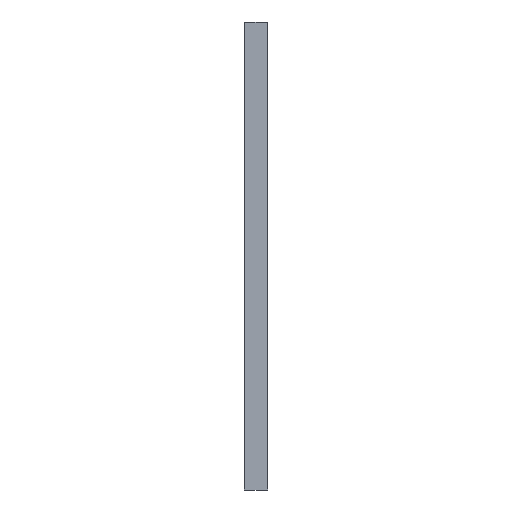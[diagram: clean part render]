
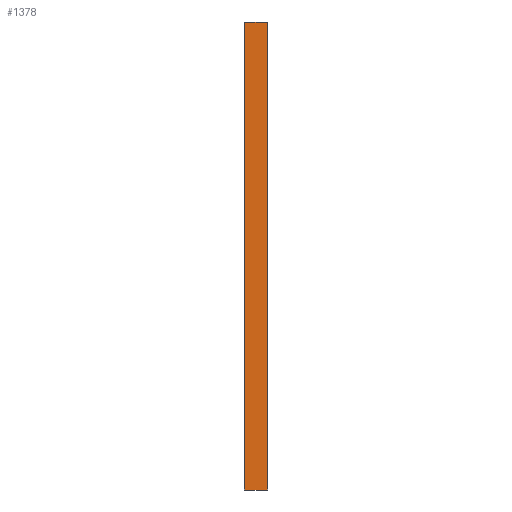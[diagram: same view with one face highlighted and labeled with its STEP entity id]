
A CAD part, front view. The second image highlights one B-rep face of the part: STEP entity #1378.
In plain terms, the highlighted planar face has unit normal (0, -1, 0).
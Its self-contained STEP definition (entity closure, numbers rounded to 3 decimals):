
#14 = CARTESIAN_POINT ( 'NONE',  ( 0., 0., 200. ) ) ;
#31 = DIRECTION ( 'NONE',  ( -1., 0., 0. ) ) ;
#85 = FACE_OUTER_BOUND ( 'NONE', #665, .T. ) ;
#89 = CARTESIAN_POINT ( 'NONE',  ( 0.2, 0., 0. ) ) ;
#134 = CARTESIAN_POINT ( 'NONE',  ( 10., 0., 200. ) ) ;
#266 = LINE ( 'NONE', #1816, #658 ) ;
#285 = ORIENTED_EDGE ( 'NONE', *, *, #730, .T. ) ;
#313 = CARTESIAN_POINT ( 'NONE',  ( 0.2, 0., 199.8 ) ) ;
#355 = VERTEX_POINT ( 'NONE', #89 ) ;
#372 = LINE ( 'NONE', #532, #1732 ) ;
#532 = CARTESIAN_POINT ( 'NONE',  ( 0., 0., 199.8 ) ) ;
#612 = CARTESIAN_POINT ( 'NONE',  ( 10., 0., 0. ) ) ;
#658 = VECTOR ( 'NONE', #1480, 1000. ) ;
#665 = EDGE_LOOP ( 'NONE', ( #668, #285, #878, #1604 ) ) ;
#668 = ORIENTED_EDGE ( 'NONE', *, *, #1849, .T. ) ;
#730 = EDGE_CURVE ( 'NONE', #850, #355, #1491, .T. ) ;
#850 = VERTEX_POINT ( 'NONE', #313 ) ;
#851 = EDGE_CURVE ( 'NONE', #1160, #1052, #911, .T. ) ;
#878 = ORIENTED_EDGE ( 'NONE', *, *, #1952, .T. ) ;
#891 = DIRECTION ( 'NONE',  ( 0., 0., 1. ) ) ;
#911 = LINE ( 'NONE', #134, #1790 ) ;
#1023 = VECTOR ( 'NONE', #1519, 1000. ) ;
#1052 = VERTEX_POINT ( 'NONE', #1283 ) ;
#1160 = VERTEX_POINT ( 'NONE', #612 ) ;
#1283 = CARTESIAN_POINT ( 'NONE',  ( 10., 0., 199.8 ) ) ;
#1378 = ADVANCED_FACE ( 'NONE', ( #85 ), #1408, .F. ) ;
#1408 = PLANE ( 'NONE',  #1920 ) ;
#1480 = DIRECTION ( 'NONE',  ( 1., 0., 0. ) ) ;
#1491 = LINE ( 'NONE', #2233, #1023 ) ;
#1519 = DIRECTION ( 'NONE',  ( 0., 0., -1. ) ) ;
#1604 = ORIENTED_EDGE ( 'NONE', *, *, #851, .T. ) ;
#1732 = VECTOR ( 'NONE', #31, 1000. ) ;
#1790 = VECTOR ( 'NONE', #1894, 1000. ) ;
#1816 = CARTESIAN_POINT ( 'NONE',  ( 0., 0., 0. ) ) ;
#1849 = EDGE_CURVE ( 'NONE', #1052, #850, #372, .T. ) ;
#1894 = DIRECTION ( 'NONE',  ( 0., 0., 1. ) ) ;
#1920 = AXIS2_PLACEMENT_3D ( 'NONE', #14, #1950, #891 ) ;
#1950 = DIRECTION ( 'NONE',  ( 0., 1., 0. ) ) ;
#1952 = EDGE_CURVE ( 'NONE', #355, #1160, #266, .T. ) ;
#2233 = CARTESIAN_POINT ( 'NONE',  ( 0.2, 0., 200. ) ) ;
